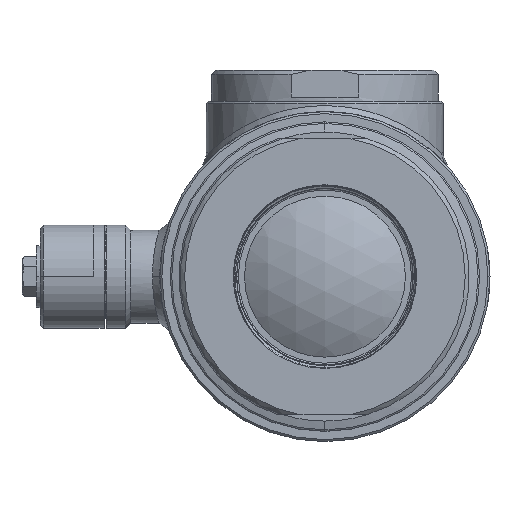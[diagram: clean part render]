
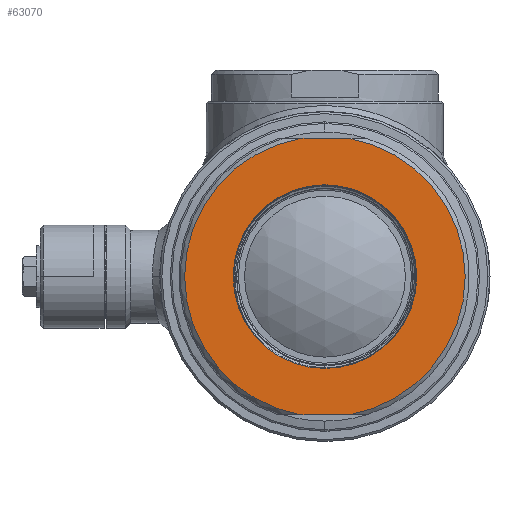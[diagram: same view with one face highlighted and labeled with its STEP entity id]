
A CAD part, left-side view. The second image highlights one B-rep face of the part: STEP entity #63070.
In plain terms, the highlighted planar face has unit normal (-1, 0, 0).
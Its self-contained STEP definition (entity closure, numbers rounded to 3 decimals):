
#30888=CARTESIAN_POINT('',(-100.,-11.619,
-67.));
#31002=CARTESIAN_POINT('',(-100.,11.619,
67.));
#31039=CARTESIAN_POINT('',(-100.,0.,0.));
#31040=DIRECTION('',(1.,0.,0.));
#31041=DIRECTION('',(0.,0.171,-0.985));
#31042=AXIS2_PLACEMENT_3D('',#31039,#31040,#31041);
#31047=DIRECTION('',(0.,-1.,0.));
#31048=VECTOR('',#31047,23.238);
#31049=CARTESIAN_POINT('',(-100.,11.619,
67.));
#31050=LINE('',#31049,#31048);
#31054=CARTESIAN_POINT('',(-100.,0.,0.));
#31055=DIRECTION('',(1.,0.,0.));
#31056=DIRECTION('',(0.,-0.171,0.985));
#31057=AXIS2_PLACEMENT_3D('',#31054,#31055,#31056);
#31062=DIRECTION('',(0.,-1.,0.));
#31063=VECTOR('',#31062,23.238);
#31064=CARTESIAN_POINT('',(-100.,11.619,
-67.));
#31065=LINE('',#31064,#31063);
#31069=CARTESIAN_POINT('',(-100.,0.,0.));
#31070=DIRECTION('',(1.,0.,0.));
#31071=DIRECTION('',(0.,1.,0.));
#31072=AXIS2_PLACEMENT_3D('',#31069,#31070,#31071);
#31077=CARTESIAN_POINT('',(-100.,0.,0.));
#31078=DIRECTION('',(1.,0.,0.));
#31079=DIRECTION('',(0.,-1.,0.));
#31080=AXIS2_PLACEMENT_3D('',#31077,#31078,#31079);
#40080=CARTESIAN_POINT('',(-100.,44.5,0.));
#40081=CARTESIAN_POINT('',(-100.,-44.5,0.));
#40082=VERTEX_POINT('',#40080);
#40083=VERTEX_POINT('',#40081);
#40093=VERTEX_POINT('',#31002);
#40094=CARTESIAN_POINT('',(-100.,11.619,-67.));
#40095=VERTEX_POINT('',#40094);
#40098=VERTEX_POINT('',#30888);
#40099=CARTESIAN_POINT('',(-100.,-11.619,67.));
#40100=VERTEX_POINT('',#40099);
#63052=CARTESIAN_POINT('',(-100.,0.,0.));
#63053=DIRECTION('',(-1.,0.,0.));
#63054=DIRECTION('',(0.,-1.,0.));
#63055=AXIS2_PLACEMENT_3D('',#63052,#63053,#63054);
#63056=PLANE('',#63055);
#63058=ORIENTED_EDGE('',*,*,#63057,.T.);
#63059=ORIENTED_EDGE('',*,*,#63008,.T.);
#63060=ORIENTED_EDGE('',*,*,#63045,.T.);
#63061=ORIENTED_EDGE('',*,*,#62957,.F.);
#63062=EDGE_LOOP('',(#63058,#63059,#63060,#63061));
#63063=FACE_OUTER_BOUND('',#63062,.F.);
#63065=ORIENTED_EDGE('',*,*,#63064,.F.);
#63067=ORIENTED_EDGE('',*,*,#63066,.F.);
#63068=EDGE_LOOP('',(#63065,#63067));
#63069=FACE_BOUND('',#63068,.F.);
#63070=ADVANCED_FACE('',(#63063,#63069),#63056,.T.);
#31043=CIRCLE('',#31042,68.);
#31058=CIRCLE('',#31057,68.);
#31073=CIRCLE('',#31072,44.5);
#31081=CIRCLE('',#31080,44.5);
#62957=EDGE_CURVE('',#40095,#40098,#31065,.T.);
#63008=EDGE_CURVE('',#40093,#40100,#31050,.T.);
#63045=EDGE_CURVE('',#40100,#40098,#31058,.T.);
#63057=EDGE_CURVE('',#40095,#40093,#31043,.T.);
#63064=EDGE_CURVE('',#40082,#40083,#31073,.T.);
#63066=EDGE_CURVE('',#40083,#40082,#31081,.T.);
